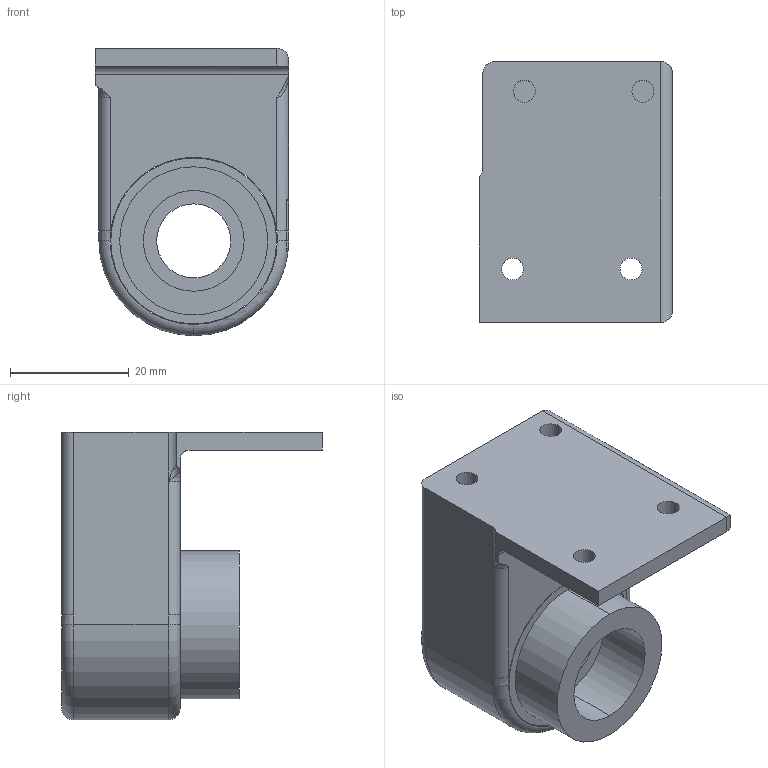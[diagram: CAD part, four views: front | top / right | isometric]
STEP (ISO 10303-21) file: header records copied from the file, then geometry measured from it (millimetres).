
FILE_DESCRIPTION (( 'STEP AP203' ), '1' );
FILE_NAME ('Front Gear Mount.STEP', '2026-01-17T21:10:53', ( '' ), ( '' ), 'SwSTEP 2.0', 'SolidWorks 2026', '' );
FILE_SCHEMA (( 'CONFIG_CONTROL_DESIGN' ));
Length unit declared in the file: millimetre
Products named in the file (1): Front Gear Mount
Bounding box: 32.59 x 44 x 48.5 mm (x, y, z)
Volume: 26662.9 mm3; surface area: 12022.9 mm2
Topology: 2 solids, 2 shells, 60 faces, 147 edges, 91 vertices
Faces by surface type: cylinder 31, plane 14, bspline 8, torus 7
Entity records: 2040 total; most frequent: CARTESIAN_POINT 569, DIRECTION 297, ORIENTED_EDGE 290, EDGE_CURVE 145, AXIS2_PLACEMENT_3D 123, VERTEX_POINT 91, CIRCLE 70, EDGE_LOOP 70
